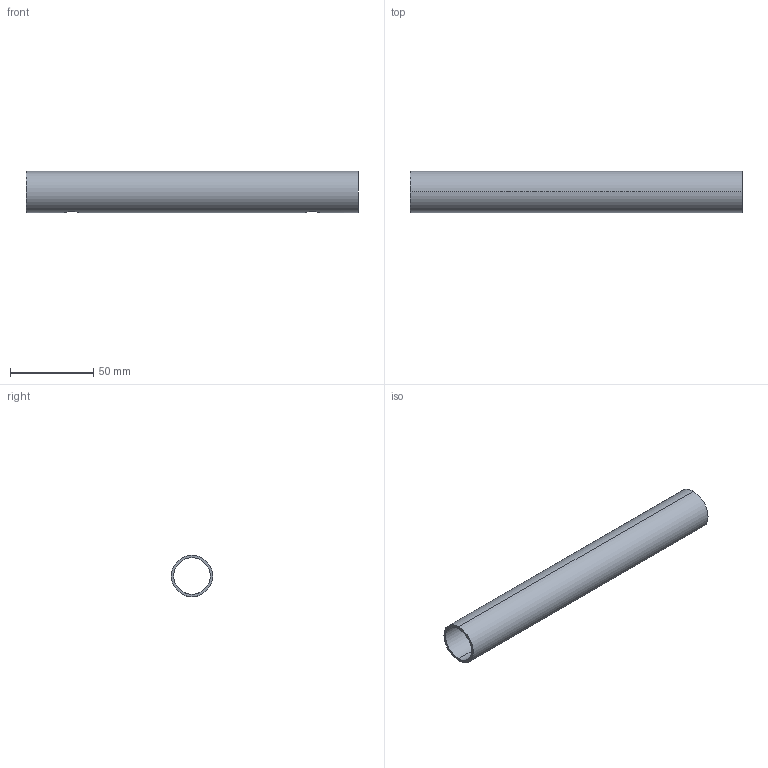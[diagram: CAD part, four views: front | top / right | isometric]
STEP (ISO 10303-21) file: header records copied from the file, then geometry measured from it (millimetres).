
FILE_DESCRIPTION (( 'STEP AP203' ), '1' );
FILE_NAME ('084.506.009PA - L200.STEP', '2021-03-02T09:11:18', ( '' ), ( '' ), 'SwSTEP 2.0', 'SolidWorks 2018', '' );
FILE_SCHEMA (( 'CONFIG_CONTROL_DESIGN' ));
Length unit declared in the file: millimetre
Products named in the file (1): 084.506.009PA - L200
Bounding box: 200 x 25 x 25 mm (x, y, z)
Volume: 21953.6 mm3; surface area: 29581.2 mm2
Topology: 1 solids, 1 shells, 10 faces, 28 edges, 16 vertices
Faces by surface type: cylinder 8, plane 2
Entity records: 669 total; most frequent: CARTESIAN_POINT 335, ORIENTED_EDGE 56, DIRECTION 50, EDGE_CURVE 28, AXIS2_PLACEMENT_3D 19, VERTEX_POINT 16, LINE 12, VECTOR 12
